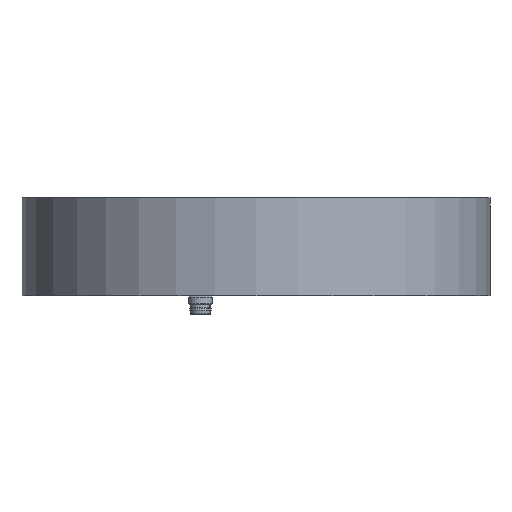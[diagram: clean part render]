
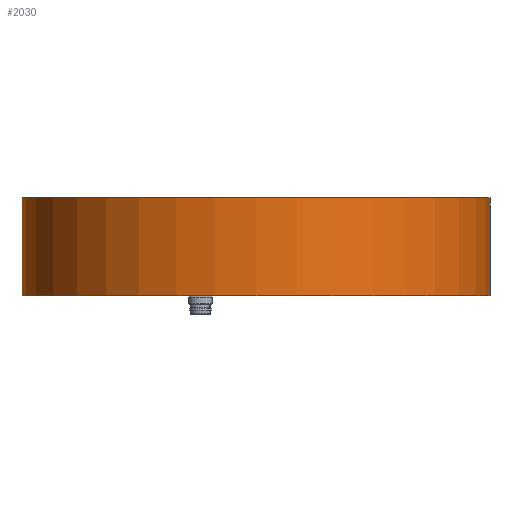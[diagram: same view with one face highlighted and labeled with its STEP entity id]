
A CAD part, front view. The second image highlights one B-rep face of the part: STEP entity #2030.
In plain terms, the highlighted cylindrical face has radius 76.45 mm (diameter 152.9 mm), a partial arc.
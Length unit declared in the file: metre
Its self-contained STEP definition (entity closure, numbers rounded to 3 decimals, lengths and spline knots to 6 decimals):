
#2030=ADVANCED_FACE('1:846',(#4299),#4300,.T.);
#4299=FACE_OUTER_BOUND('',#5742,.T.);
#4300=CYLINDRICAL_SURFACE('',#5743,0.07645);
#5742=EDGE_LOOP('',(#8893,#8894,#8895,#8896));
#5743=AXIS2_PLACEMENT_3D('',#8897,#8898,#8899);
#8893=ORIENTED_EDGE('',*,*,#11584,.T.);
#8894=ORIENTED_EDGE('',*,*,#12204,.T.);
#8895=ORIENTED_EDGE('',*,*,#11586,.T.);
#8896=ORIENTED_EDGE('',*,*,#12205,.T.);
#8897=CARTESIAN_POINT('',(0.0,0.0,0.0));
#8898=DIRECTION('',(0.0,0.0,-1.0));
#8899=DIRECTION('',(1.0,0.0,0.0));
#11584=EDGE_CURVE('',#13032,#13033,#13034,.T.);
#11586=EDGE_CURVE('',#13037,#13035,#13038,.T.);
#12204=EDGE_CURVE('1:2613',#13033,#13037,#14050,.F.);
#12205=EDGE_CURVE('1:2616',#13035,#13032,#14051,.T.);
#13032=VERTEX_POINT('',#14316);
#13033=VERTEX_POINT('',#14317);
#13034=LINE('',#14318,#14319);
#13035=VERTEX_POINT('',#14320);
#13037=VERTEX_POINT('',#14322);
#13038=LINE('',#14323,#14324);
#14050=CIRCLE('',#16078,0.07645);
#14051=CIRCLE('',#16079,0.07645);
#14316=CARTESIAN_POINT('',(0.07645,0.,0.0));
#14317=CARTESIAN_POINT('',(0.07645,0.,0.032));
#14318=CARTESIAN_POINT('',(0.07645,0.,0.0));
#14319=VECTOR('',#16334,1.0);
#14320=CARTESIAN_POINT('',(-0.07645,0.,0.0));
#14322=CARTESIAN_POINT('',(-0.07645,0.,0.032));
#14323=CARTESIAN_POINT('',(-0.07645,0.,0.0));
#14324=VECTOR('',#16338,1.0);
#16078=AXIS2_PLACEMENT_3D('',#17561,#17562,#17563);
#16079=AXIS2_PLACEMENT_3D('',#17564,#17565,#17566);
#16334=DIRECTION('',(-0.0,-0.0,1.0));
#16338=DIRECTION('',(0.0,0.0,-1.0));
#17561=CARTESIAN_POINT('',(0.0,0.0,0.032));
#17562=DIRECTION('',(0.0,0.0,1.0));
#17563=DIRECTION('',(1.0,0.0,0.0));
#17564=CARTESIAN_POINT('',(0.0,0.0,0.0));
#17565=DIRECTION('',(0.0,-0.0,1.0));
#17566=DIRECTION('',(1.0,0.0,0.0));
